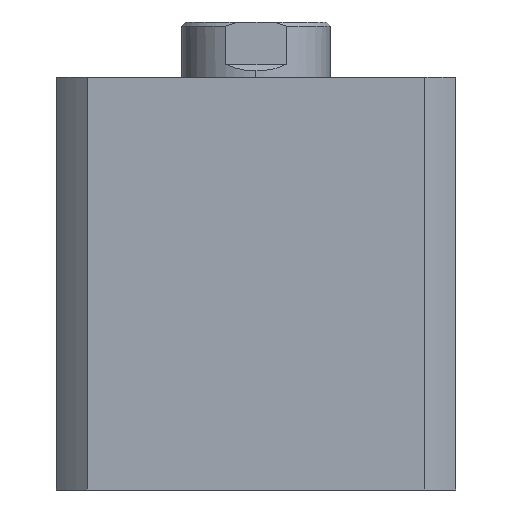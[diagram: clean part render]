
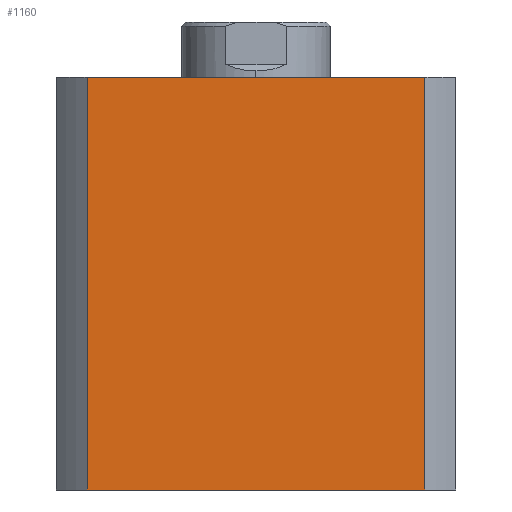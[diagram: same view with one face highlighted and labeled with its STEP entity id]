
A CAD part, left-side view. The second image highlights one B-rep face of the part: STEP entity #1160.
In plain terms, the highlighted planar face has unit normal (-1, 0, 0).
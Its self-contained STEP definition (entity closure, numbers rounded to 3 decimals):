
#22 = AXIS2_PLACEMENT_3D ( 'NONE', #1725, #1733, #1734 ) ;
#558 = LINE ( 'NONE', #2370, #561 ) ;
#561 = VECTOR ( 'NONE', #2371, 1000. ) ;
#575 = LINE ( 'NONE', #2413, #581 ) ;
#579 = LINE ( 'NONE', #2412, #585 ) ;
#580 = LINE ( 'NONE', #2417, #583 ) ;
#581 = VECTOR ( 'NONE', #2409, 1000. ) ;
#583 = VECTOR ( 'NONE', #2419, 1000. ) ;
#585 = VECTOR ( 'NONE', #2420, 1000. ) ;
#738 = FACE_OUTER_BOUND ( 'NONE', #1797, .T. ) ;
#1160 = ADVANCED_FACE ( 'NONE', ( #738 ), #1730, .F. ) ;
#1725 = CARTESIAN_POINT ( 'NONE',  ( -47., 0., 97. ) ) ;
#1730 = PLANE ( 'NONE',  #22 ) ;
#1733 = DIRECTION ( 'NONE',  ( 1., 0., 0. ) ) ;
#1734 = DIRECTION ( 'NONE',  ( 0., 0., -1. ) ) ;
#1797 = EDGE_LOOP ( 'NONE', ( #4677, #4676, #4675, #4674 ) ) ;
#2370 = CARTESIAN_POINT ( 'NONE',  ( -47., 0., 97. ) ) ;
#2371 = DIRECTION ( 'NONE',  ( 0., -1., 0. ) ) ;
#2409 = DIRECTION ( 'NONE',  ( 0., 0., -1. ) ) ;
#2412 = CARTESIAN_POINT ( 'NONE',  ( -47., 39.664, 97. ) ) ;
#2413 = CARTESIAN_POINT ( 'NONE',  ( -47., -39.664, 97. ) ) ;
#2417 = CARTESIAN_POINT ( 'NONE',  ( -47., 0., 0. ) ) ;
#2419 = DIRECTION ( 'NONE',  ( 0., -1., 0. ) ) ;
#2420 = DIRECTION ( 'NONE',  ( 0., 0., -1. ) ) ;
#3867 = VERTEX_POINT ( 'NONE', #4212 ) ;
#3868 = VERTEX_POINT ( 'NONE', #4213 ) ;
#3888 = VERTEX_POINT ( 'NONE', #4233 ) ;
#3889 = VERTEX_POINT ( 'NONE', #4234 ) ;
#4212 = CARTESIAN_POINT ( 'NONE',  ( -47., 39.664, 97. ) ) ;
#4213 = CARTESIAN_POINT ( 'NONE',  ( -47., -39.664, 97. ) ) ;
#4233 = CARTESIAN_POINT ( 'NONE',  ( -47., 39.664, 0. ) ) ;
#4234 = CARTESIAN_POINT ( 'NONE',  ( -47., -39.664, 0. ) ) ;
#4674 = ORIENTED_EDGE ( 'NONE', *, *, #4977, .T. ) ;
#4675 = ORIENTED_EDGE ( 'NONE', *, *, #4959, .F. ) ;
#4676 = ORIENTED_EDGE ( 'NONE', *, *, #4975, .F. ) ;
#4677 = ORIENTED_EDGE ( 'NONE', *, *, #4976, .T. ) ;
#4959 = EDGE_CURVE ( 'NONE', #3867, #3868, #558, .T. ) ;
#4975 = EDGE_CURVE ( 'NONE', #3868, #3889, #575, .T. ) ;
#4976 = EDGE_CURVE ( 'NONE', #3888, #3889, #580, .T. ) ;
#4977 = EDGE_CURVE ( 'NONE', #3867, #3888, #579, .T. ) ;
